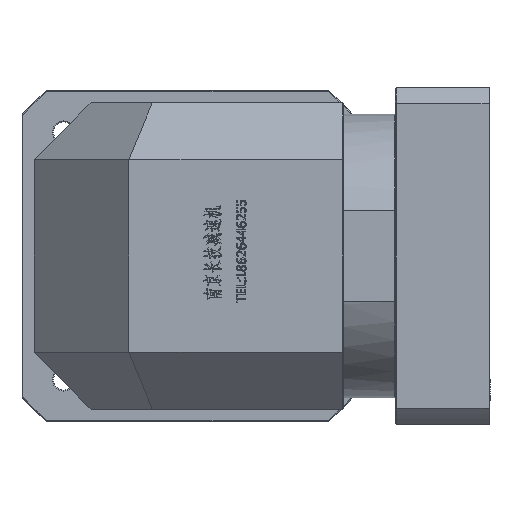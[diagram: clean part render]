
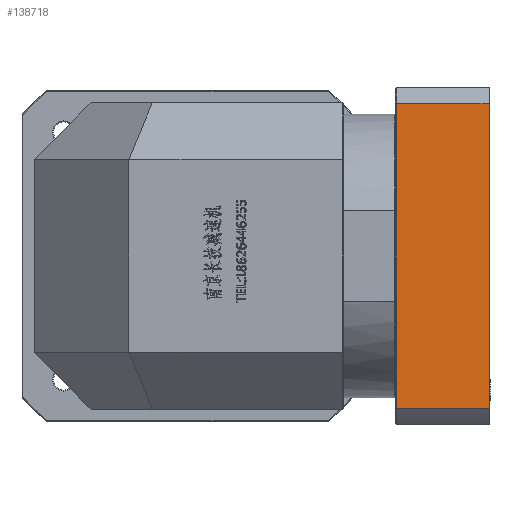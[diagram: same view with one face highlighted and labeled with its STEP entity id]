
A CAD part, left-side view. The second image highlights one B-rep face of the part: STEP entity #138718.
In plain terms, the highlighted planar face has unit normal (-1, 0, 0).
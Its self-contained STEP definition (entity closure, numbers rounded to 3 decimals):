
#6391 = DIRECTION ( 'NONE',  ( 0., -1., 0. ) ) ;
#10501 = ORIENTED_EDGE ( 'NONE', *, *, #47112, .F. ) ;
#12744 = VERTEX_POINT ( 'NONE', #23588 ) ;
#21378 = EDGE_CURVE ( 'NONE', #12744, #140951, #120669, .T. ) ;
#23588 = CARTESIAN_POINT ( 'NONE',  ( -150.015, -186.153, 348.459 ) ) ;
#25998 = DIRECTION ( 'NONE',  ( 0., 0., 1. ) ) ;
#26451 = DIRECTION ( 'NONE',  ( 0., 0., -1. ) ) ;
#28397 = VERTEX_POINT ( 'NONE', #52430 ) ;
#30033 = CARTESIAN_POINT ( 'NONE',  ( -150.015, -235.153, 348.459 ) ) ;
#38956 = EDGE_CURVE ( 'NONE', #119438, #12744, #81810, .T. ) ;
#39975 = AXIS2_PLACEMENT_3D ( 'NONE', #129543, #96114, #47986 ) ;
#43256 = EDGE_LOOP ( 'NONE', ( #53999, #69077, #10501, #149888 ) ) ;
#43341 = LINE ( 'NONE', #132630, #122234 ) ;
#47112 = EDGE_CURVE ( 'NONE', #28397, #119438, #114945, .T. ) ;
#47986 = DIRECTION ( 'NONE',  ( 0., 1., 0. ) ) ;
#52430 = CARTESIAN_POINT ( 'NONE',  ( -150.015, -235.153, 187.475 ) ) ;
#53999 = ORIENTED_EDGE ( 'NONE', *, *, #21378, .F. ) ;
#57991 = VECTOR ( 'NONE', #25998, 1000. ) ;
#58879 = CARTESIAN_POINT ( 'NONE',  ( -150.015, -186.153, 178.967 ) ) ;
#69046 = EDGE_CURVE ( 'NONE', #140951, #28397, #43341, .T. ) ;
#69077 = ORIENTED_EDGE ( 'NONE', *, *, #38956, .F. ) ;
#71025 = PLANE ( 'NONE',  #39975 ) ;
#73008 = DIRECTION ( 'NONE',  ( 0., 1., 0. ) ) ;
#81810 = LINE ( 'NONE', #58879, #57991 ) ;
#82821 = CARTESIAN_POINT ( 'NONE',  ( -150.015, 157.152, 187.475 ) ) ;
#96114 = DIRECTION ( 'NONE',  ( 1., 0., 0. ) ) ;
#99266 = FACE_OUTER_BOUND ( 'NONE', #43256, .T. ) ;
#107182 = CARTESIAN_POINT ( 'NONE',  ( -150.015, -186.153, 187.475 ) ) ;
#113292 = VECTOR ( 'NONE', #6391, 1000. ) ;
#114945 = LINE ( 'NONE', #82821, #133401 ) ;
#119438 = VERTEX_POINT ( 'NONE', #107182 ) ;
#120669 = LINE ( 'NONE', #134739, #113292 ) ;
#122234 = VECTOR ( 'NONE', #26451, 1000. ) ;
#129543 = CARTESIAN_POINT ( 'NONE',  ( -150.015, -235.653, 178.967 ) ) ;
#132630 = CARTESIAN_POINT ( 'NONE',  ( -150.015, -235.153, 186.967 ) ) ;
#133401 = VECTOR ( 'NONE', #73008, 1000. ) ;
#134739 = CARTESIAN_POINT ( 'NONE',  ( -150.015, 157.152, 348.459 ) ) ;
#138718 = ADVANCED_FACE ( 'NONE', ( #99266 ), #71025, .F. ) ;
#140951 = VERTEX_POINT ( 'NONE', #30033 ) ;
#149888 = ORIENTED_EDGE ( 'NONE', *, *, #69046, .F. ) ;
